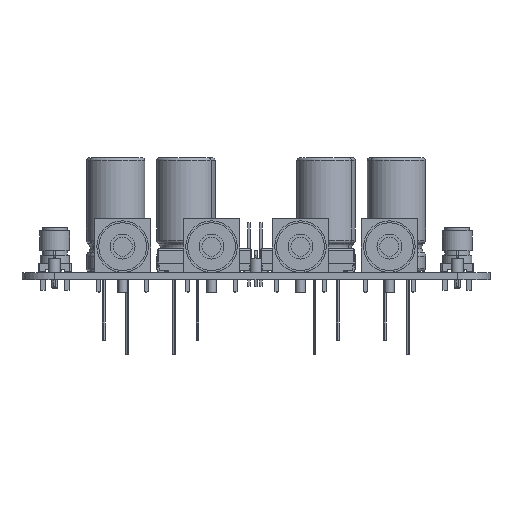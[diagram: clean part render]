
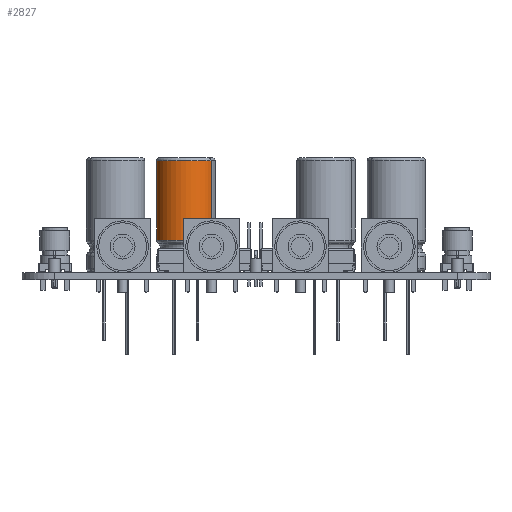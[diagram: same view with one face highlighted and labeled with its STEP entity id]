
A CAD part, left-side view. The second image highlights one B-rep face of the part: STEP entity #2827.
In plain terms, the highlighted cylindrical face has radius 6.25 mm (diameter 12.5 mm), a partial arc.
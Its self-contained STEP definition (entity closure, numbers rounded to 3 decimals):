
#2798 = VERTEX_POINT('',#2799);
#2799 = CARTESIAN_POINT('',(5.413,7.413,3.125));
#2806 = EDGE_CURVE('',#2798,#2807,#2809,.T.);
#2807 = VERTEX_POINT('',#2808);
#2808 = CARTESIAN_POINT('',(5.413,7.413,-3.125));
#2809 = CIRCLE('',#2810,6.25);
#2810 = AXIS2_PLACEMENT_3D('',#2811,#2812,#2813);
#2811 = CARTESIAN_POINT('',(0.,7.413,0.));
#2812 = DIRECTION('',(0.,-1.,0.));
#2813 = DIRECTION('',(1.,0.,0.));
#2827 = ADVANCED_FACE('',(#2828),#2854,.T.);
#2828 = FACE_BOUND('',#2829,.T.);
#2829 = EDGE_LOOP('',(#2830,#2831,#2839,#2848));
#2830 = ORIENTED_EDGE('',*,*,#2806,.F.);
#2831 = ORIENTED_EDGE('',*,*,#2832,.T.);
#2832 = EDGE_CURVE('',#2798,#2833,#2835,.T.);
#2833 = VERTEX_POINT('',#2834);
#2834 = CARTESIAN_POINT('',(5.413,24.333,3.125));
#2835 = LINE('',#2836,#2837);
#2836 = CARTESIAN_POINT('',(5.413,-17.,3.125));
#2837 = VECTOR('',#2838,1.);
#2838 = DIRECTION('',(0.,1.,-0.));
#2839 = ORIENTED_EDGE('',*,*,#2840,.T.);
#2840 = EDGE_CURVE('',#2833,#2841,#2843,.T.);
#2841 = VERTEX_POINT('',#2842);
#2842 = CARTESIAN_POINT('',(5.413,24.333,-3.125));
#2843 = CIRCLE('',#2844,6.25);
#2844 = AXIS2_PLACEMENT_3D('',#2845,#2846,#2847);
#2845 = CARTESIAN_POINT('',(0.,24.333,0.));
#2846 = DIRECTION('',(0.,-1.,0.));
#2847 = DIRECTION('',(1.,0.,0.));
#2848 = ORIENTED_EDGE('',*,*,#2849,.F.);
#2849 = EDGE_CURVE('',#2807,#2841,#2850,.T.);
#2850 = LINE('',#2851,#2852);
#2851 = CARTESIAN_POINT('',(5.413,-17.,-3.125));
#2852 = VECTOR('',#2853,1.);
#2853 = DIRECTION('',(0.,1.,-0.));
#2854 = CYLINDRICAL_SURFACE('',#2855,6.25);
#2855 = AXIS2_PLACEMENT_3D('',#2856,#2857,#2858);
#2856 = CARTESIAN_POINT('',(0.,0.,0.));
#2857 = DIRECTION('',(0.,-1.,-0.));
#2858 = DIRECTION('',(1.,0.,0.));
